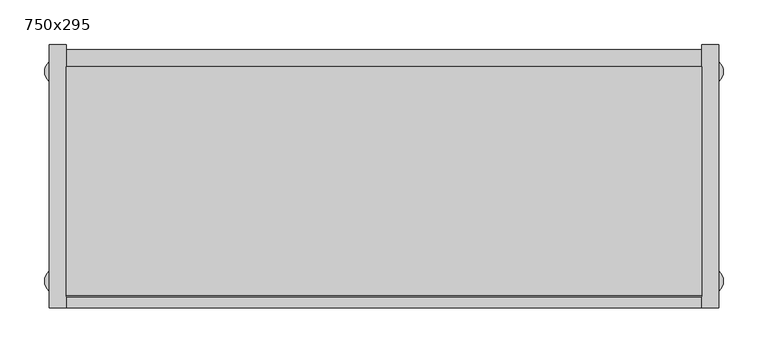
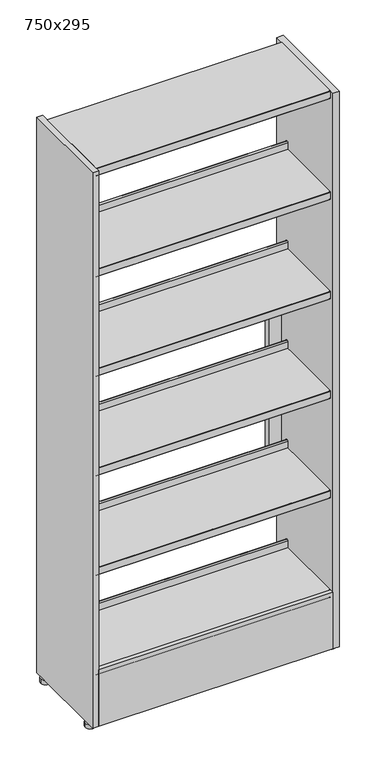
"""IFC4 building model written with IfcOpenShell, lengths in millimetres: furniture geometry, BK Library - Smaaland ES - 1800 : 750x295."""

from ifc_helpers import new_model, si_unit, point, frame, frame_2d, origin, origin_with_axes, place, context, project, spatial, polyline, circle_curve, trimmed, segment, composite_curve, outline, extrude, source, transform, mapped, element, save


def furniture_750x295_07cc5ffa(model_context):
    return source(origin(), model_context, "Body", "SweptSolid", [
        extrude(outline(composite_curve([segment(trimmed(circle_curve(frame_2d((365.5005427, 117.4952633)), 14.4994573), [point((380.0, 117.4952633))], [point((351.0010853, 117.4952633))], False, "CARTESIAN"), True, "CONTINUOUS"), segment(trimmed(circle_curve(frame_2d((365.5005427, 117.4952633)), 14.4994573), [point((351.0010853, 117.4952633))], [point((380.0, 117.4952633))], False, "CARTESIAN"), True, "CONTINUOUS")], self_intersect=False)), origin_with_axes(), (0.0, 0.0, 1.0), 13.6999998),
        extrude(outline(composite_curve([segment(trimmed(circle_curve(frame_2d((-365.5005427, 117.4952633)), 14.4994573), [point((-380.0, 117.4952633))], [point((-351.0010853, 117.4952633))], False, "CARTESIAN"), True, "CONTINUOUS"), segment(trimmed(circle_curve(frame_2d((-365.5005427, 117.4952633)), 14.4994573), [point((-351.0010853, 117.4952633))], [point((-380.0, 117.4952633))], False, "CARTESIAN"), True, "CONTINUOUS")], self_intersect=False)), origin_with_axes(), (0.0, 0.0, 1.0), 13.6999998),
        extrude(outline(composite_curve([segment(trimmed(circle_curve(frame_2d((365.5005427, -117.4952633)), 14.4994573), [point((380.0, -117.4952633))], [point((351.0010853, -117.4952633))], False, "CARTESIAN"), True, "CONTINUOUS"), segment(trimmed(circle_curve(frame_2d((365.5005427, -117.4952633)), 14.4994573), [point((351.0010853, -117.4952633))], [point((380.0, -117.4952633))], False, "CARTESIAN"), True, "CONTINUOUS")], self_intersect=False)), origin_with_axes(), (0.0, 0.0, 1.0), 13.6999998),
        extrude(outline(composite_curve([segment(trimmed(circle_curve(frame_2d((-365.5005427, -117.4952633)), 14.4994573), [point((-380.0, -117.4952633))], [point((-351.0010853, -117.4952633))], False, "CARTESIAN"), True, "CONTINUOUS"), segment(trimmed(circle_curve(frame_2d((-365.5005427, -117.4952633)), 14.4994573), [point((-351.0010853, -117.4952633))], [point((-380.0, -117.4952633))], False, "CARTESIAN"), True, "CONTINUOUS")], self_intersect=False)), origin_with_axes(), (0.0, 0.0, 1.0), 13.6999998),
        extrude(outline(polyline([(1106.1999512, -356.0), (391.1999512, -356.0), (391.1999512, 356.0), (1106.1999512, 356.0), (1106.1999512, -356.0)]), holes=[polyline([(1066.1999514, -317.5), (1066.1999514, 317.5), (431.1999514, 317.5), (431.1999514, -317.5), (1066.1999514, -317.5)])]), frame((0.0, 123.0, 0.0), z_axis=(0.0, 1.0, 0.0), x_axis=(0.0, 0.0, 1.0)), (0.0, 0.0, 1.0), 19.0),
        extrude(outline(polyline([(356.0, -135.2476624), (356.0, -147.5), (-356.0, -147.5), (-356.0, -135.2476624), (356.0, -135.2476624)])), frame((0.0, 0.0, 13.6999998), z_axis=(0.0, 0.0, 1.0), x_axis=(1.0, 0.0, 0.0)), (0.0, 0.0, 1.0), 181.4999514),
        extrude(outline(composite_curve([segment(polyline([(123.0, 1800.0), (123.0, 1798.0), (-133.75, 1798.0), (-133.75, 1776.5), (-121.75, 1776.5), (-121.75, 1775.0), (-133.75, 1775.0)]), True, "CONTINUOUS"), segment(trimmed(circle_curve(frame_2d((-133.75, 1776.5)), 1.5), [point((-133.75, 1775.0))], [point((-135.25, 1776.5))], False, "CARTESIAN"), True, "CONTINUOUS"), segment(polyline([(-135.25, 1776.5), (-135.25, 1798.5)]), True, "CONTINUOUS"), segment(trimmed(circle_curve(frame_2d((-133.75, 1798.5)), 1.5), [point((-135.25, 1798.5))], [point((-133.75, 1800.0))], False, "CARTESIAN"), True, "CONTINUOUS"), segment(polyline([(-133.75, 1800.0), (123.0, 1800.0)]), True, "CONTINUOUS")], self_intersect=False)), frame((-356.0, 0.0, 0.0), z_axis=(1.0, 0.0, 0.0), x_axis=(0.0, 1.0, 0.0)), (0.0, 0.0, 1.0), 712.0),
        extrude(outline(composite_curve([segment(polyline([(89.75, 1475.1999512), (89.75, 1496.7196336)]), True, "CONTINUOUS"), segment(trimmed(circle_curve(frame_2d((93.25, 1496.7196336)), 3.5), [point((89.75, 1496.7196336))], [point((96.75, 1496.7196336))], False, "CARTESIAN"), True, "CONTINUOUS"), segment(polyline([(96.75, 1496.7196336), (96.75, 1488.1999512), (95.25, 1488.1999512), (95.25, 1496.7020126)]), True, "CONTINUOUS"), segment(trimmed(circle_curve(frame_2d((93.25, 1496.7020126)), 2.0), [point((95.25, 1496.7020126))], [point((91.25, 1496.7020126))], True, "CARTESIAN"), True, "CONTINUOUS"), segment(polyline([(91.25, 1496.7020126), (91.25, 1475.1547733)]), True, "CONTINUOUS"), segment(trimmed(circle_curve(frame_2d((89.7951779, 1475.1547733)), 1.4548221), [point((91.25, 1475.1547733))], [point((89.7951779, 1473.6999512))], False, "CARTESIAN"), True, "CONTINUOUS"), segment(polyline([(89.7951779, 1473.6999512), (-133.75, 1473.6999512), (-133.75, 1452.1999512), (-121.75, 1452.1999512), (-121.75, 1450.6999512), (-133.75, 1450.6999512)]), True, "CONTINUOUS"), segment(trimmed(circle_curve(frame_2d((-133.75, 1452.1999512)), 1.5), [point((-133.75, 1450.6999512))], [point((-135.25, 1452.1999512))], False, "CARTESIAN"), True, "CONTINUOUS"), segment(polyline([(-135.25, 1452.1999512), (-135.25, 1473.6999512)]), True, "CONTINUOUS"), segment(trimmed(circle_curve(frame_2d((-133.75, 1473.6999512)), 1.5), [point((-135.25, 1473.6999512))], [point((-133.75, 1475.1999512))], False, "CARTESIAN"), True, "CONTINUOUS"), segment(polyline([(-133.75, 1475.1999512), (89.75, 1475.1999512)]), True, "CONTINUOUS")], self_intersect=False)), frame((-356.0, 0.0, 0.0), z_axis=(1.0, 0.0, 0.0), x_axis=(0.0, 1.0, 0.0)), (0.0, 0.0, 1.0), 712.0),
        extrude(outline(composite_curve([segment(polyline([(89.75, 1155.1999512), (89.75, 1176.7196336)]), True, "CONTINUOUS"), segment(trimmed(circle_curve(frame_2d((93.25, 1176.7196336)), 3.5), [point((89.75, 1176.7196336))], [point((96.75, 1176.7196336))], False, "CARTESIAN"), True, "CONTINUOUS"), segment(polyline([(96.75, 1176.7196336), (96.75, 1168.1999512), (95.25, 1168.1999512), (95.25, 1176.7020126)]), True, "CONTINUOUS"), segment(trimmed(circle_curve(frame_2d((93.25, 1176.7020126)), 2.0), [point((95.25, 1176.7020126))], [point((91.25, 1176.7020126))], True, "CARTESIAN"), True, "CONTINUOUS"), segment(polyline([(91.25, 1176.7020126), (91.25, 1155.1547733)]), True, "CONTINUOUS"), segment(trimmed(circle_curve(frame_2d((89.7951779, 1155.1547733)), 1.4548221), [point((91.25, 1155.1547733))], [point((89.7951779, 1153.6999512))], False, "CARTESIAN"), True, "CONTINUOUS"), segment(polyline([(89.7951779, 1153.6999512), (-133.75, 1153.6999512), (-133.75, 1132.1999512), (-121.75, 1132.1999512), (-121.75, 1130.6999512), (-133.75, 1130.6999512)]), True, "CONTINUOUS"), segment(trimmed(circle_curve(frame_2d((-133.75, 1132.1999512)), 1.5), [point((-133.75, 1130.6999512))], [point((-135.25, 1132.1999512))], False, "CARTESIAN"), True, "CONTINUOUS"), segment(polyline([(-135.25, 1132.1999512), (-135.25, 1153.6999512)]), True, "CONTINUOUS"), segment(trimmed(circle_curve(frame_2d((-133.75, 1153.6999512)), 1.5), [point((-135.25, 1153.6999512))], [point((-133.75, 1155.1999512))], False, "CARTESIAN"), True, "CONTINUOUS"), segment(polyline([(-133.75, 1155.1999512), (89.75, 1155.1999512)]), True, "CONTINUOUS")], self_intersect=False)), frame((-356.0, 0.0, 0.0), z_axis=(1.0, 0.0, 0.0), x_axis=(0.0, 1.0, 0.0)), (0.0, 0.0, 1.0), 712.0),
        extrude(outline(composite_curve([segment(polyline([(89.75, 835.1999512), (89.75, 856.7196336)]), True, "CONTINUOUS"), segment(trimmed(circle_curve(frame_2d((93.25, 856.7196336)), 3.5), [point((89.75, 856.7196336))], [point((96.75, 856.7196336))], False, "CARTESIAN"), True, "CONTINUOUS"), segment(polyline([(96.75, 856.7196336), (96.75, 848.1999512), (95.25, 848.1999512), (95.25, 856.7020126)]), True, "CONTINUOUS"), segment(trimmed(circle_curve(frame_2d((93.25, 856.7020126)), 2.0), [point((95.25, 856.7020126))], [point((91.25, 856.7020126))], True, "CARTESIAN"), True, "CONTINUOUS"), segment(polyline([(91.25, 856.7020126), (91.25, 835.1547733)]), True, "CONTINUOUS"), segment(trimmed(circle_curve(frame_2d((89.7951779, 835.1547733)), 1.4548221), [point((91.25, 835.1547733))], [point((89.7951779, 833.6999512))], False, "CARTESIAN"), True, "CONTINUOUS"), segment(polyline([(89.7951779, 833.6999512), (-133.75, 833.6999512), (-133.75, 812.1999512), (-121.75, 812.1999512), (-121.75, 810.6999512), (-133.75, 810.6999512)]), True, "CONTINUOUS"), segment(trimmed(circle_curve(frame_2d((-133.75, 812.1999512)), 1.5), [point((-133.75, 810.6999512))], [point((-135.25, 812.1999512))], False, "CARTESIAN"), True, "CONTINUOUS"), segment(polyline([(-135.25, 812.1999512), (-135.25, 833.6999512)]), True, "CONTINUOUS"), segment(trimmed(circle_curve(frame_2d((-133.75, 833.6999512)), 1.5), [point((-135.25, 833.6999512))], [point((-133.75, 835.1999512))], False, "CARTESIAN"), True, "CONTINUOUS"), segment(polyline([(-133.75, 835.1999512), (89.75, 835.1999512)]), True, "CONTINUOUS")], self_intersect=False)), frame((-356.0, 0.0, 0.0), z_axis=(1.0, 0.0, 0.0), x_axis=(0.0, 1.0, 0.0)), (0.0, 0.0, 1.0), 712.0),
        extrude(outline(composite_curve([segment(polyline([(89.75, 515.1999512), (89.75, 536.7196336)]), True, "CONTINUOUS"), segment(trimmed(circle_curve(frame_2d((93.25, 536.7196336)), 3.5), [point((89.75, 536.7196336))], [point((96.75, 536.7196336))], False, "CARTESIAN"), True, "CONTINUOUS"), segment(polyline([(96.75, 536.7196336), (96.75, 528.1999512), (95.25, 528.1999512), (95.25, 536.7020126)]), True, "CONTINUOUS"), segment(trimmed(circle_curve(frame_2d((93.25, 536.7020126)), 2.0), [point((95.25, 536.7020126))], [point((91.25, 536.7020126))], True, "CARTESIAN"), True, "CONTINUOUS"), segment(polyline([(91.25, 536.7020126), (91.25, 515.1547733)]), True, "CONTINUOUS"), segment(trimmed(circle_curve(frame_2d((89.7951779, 515.1547733)), 1.4548221), [point((91.25, 515.1547733))], [point((89.7951779, 513.6999512))], False, "CARTESIAN"), True, "CONTINUOUS"), segment(polyline([(89.7951779, 513.6999512), (-133.75, 513.6999512), (-133.75, 492.1999512), (-121.75, 492.1999512), (-121.75, 490.6999512), (-133.75, 490.6999512)]), True, "CONTINUOUS"), segment(trimmed(circle_curve(frame_2d((-133.75, 492.1999512)), 1.5), [point((-133.75, 490.6999512))], [point((-135.25, 492.1999512))], False, "CARTESIAN"), True, "CONTINUOUS"), segment(polyline([(-135.25, 492.1999512), (-135.25, 513.6999512)]), True, "CONTINUOUS"), segment(trimmed(circle_curve(frame_2d((-133.75, 513.6999512)), 1.5), [point((-135.25, 513.6999512))], [point((-133.75, 515.1999512))], False, "CARTESIAN"), True, "CONTINUOUS"), segment(polyline([(-133.75, 515.1999512), (89.75, 515.1999512)]), True, "CONTINUOUS")], self_intersect=False)), frame((-356.0, 0.0, 0.0), z_axis=(1.0, 0.0, 0.0), x_axis=(0.0, 1.0, 0.0)), (0.0, 0.0, 1.0), 712.0),
        extrude(outline(composite_curve([segment(polyline([(89.75, 195.1999512), (89.75, 216.7196336)]), True, "CONTINUOUS"), segment(trimmed(circle_curve(frame_2d((93.25, 216.7196336)), 3.5), [point((89.75, 216.7196336))], [point((96.75, 216.7196336))], False, "CARTESIAN"), True, "CONTINUOUS"), segment(polyline([(96.75, 216.7196336), (96.75, 208.1999512), (95.25, 208.1999512), (95.25, 216.7020126)]), True, "CONTINUOUS"), segment(trimmed(circle_curve(frame_2d((93.25, 216.7020126)), 2.0), [point((95.25, 216.7020126))], [point((91.25, 216.7020126))], True, "CARTESIAN"), True, "CONTINUOUS"), segment(polyline([(91.25, 216.7020126), (91.25, 195.1547733)]), True, "CONTINUOUS"), segment(trimmed(circle_curve(frame_2d((89.7951779, 195.1547733)), 1.4548221), [point((91.25, 195.1547733))], [point((89.7951779, 193.6999512))], False, "CARTESIAN"), True, "CONTINUOUS"), segment(polyline([(89.7951779, 193.6999512), (-133.75, 193.6999512), (-133.75, 172.1999512), (-121.75, 172.1999512), (-121.75, 170.6999512), (-133.75, 170.6999512)]), True, "CONTINUOUS"), segment(trimmed(circle_curve(frame_2d((-133.75, 172.1999512)), 1.5), [point((-133.75, 170.6999512))], [point((-135.25, 172.1999512))], False, "CARTESIAN"), True, "CONTINUOUS"), segment(polyline([(-135.25, 172.1999512), (-135.25, 193.6999512)]), True, "CONTINUOUS"), segment(trimmed(circle_curve(frame_2d((-133.75, 193.6999512)), 1.5), [point((-135.25, 193.6999512))], [point((-133.75, 195.1999512))], False, "CARTESIAN"), True, "CONTINUOUS"), segment(polyline([(-133.75, 195.1999512), (89.75, 195.1999512)]), True, "CONTINUOUS")], self_intersect=False)), frame((-356.0, 0.0, 0.0), z_axis=(1.0, 0.0, 0.0), x_axis=(0.0, 1.0, 0.0)), (0.0, 0.0, 1.0), 712.0),
        extrude(outline(polyline([(356.0, 147.5), (375.0, 147.5), (375.0, -147.5), (356.0, -147.5), (356.0, 147.5)])), frame((0.0, 0.0, 13.6999998), z_axis=(0.0, 0.0, 1.0), x_axis=(1.0, 0.0, 0.0)), (0.0, 0.0, 1.0), 1786.3000002),
        extrude(outline(polyline([(-356.0, 147.5), (-356.0, -147.5), (-375.0, -147.5), (-375.0, 147.5), (-356.0, 147.5)])), frame((0.0, 0.0, 13.6999998), z_axis=(0.0, 0.0, 1.0), x_axis=(1.0, 0.0, 0.0)), (0.0, 0.0, 1.0), 1786.3000002),
    ])


if __name__ == "__main__":
    model = new_model("IFC4")
    model_context = context("Model", 3, world=origin())
    ifc_project = project(units=[si_unit("LENGTHUNIT", "METRE", prefix="MILLI")], contexts=[model_context])
    site = spatial("IfcSite", under=ifc_project)
    building = spatial("IfcBuilding", under=site)
    placement = place(None, origin())
    furniture_750x295_shape = furniture_750x295_07cc5ffa(model_context)
    element("IfcFurniture", 1, ObjectType="BK Library - Smaaland ES - 1800 : 750x295", at=placement, inside=building, context=model_context, shape_type="MappedRepresentation", body=[
        mapped(furniture_750x295_shape, transform((0.0, 0.0, 0.0), x_axis=(1.0, 0.0, 0.0), y_axis=(0.0, 1.0, 0.0), z_axis=(0.0, 0.0, 1.0))),
    ])
    save(model, "model.ifc")
